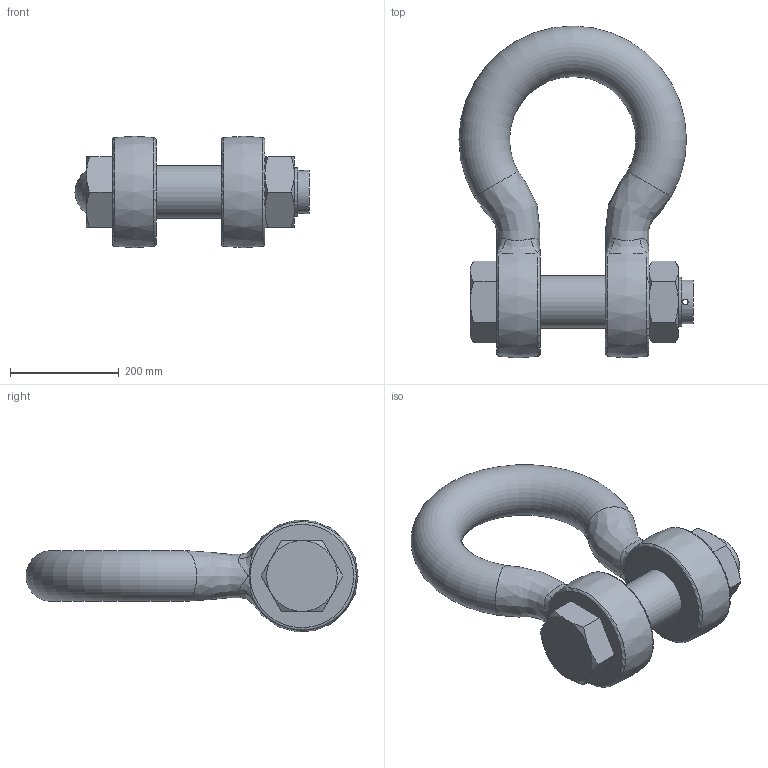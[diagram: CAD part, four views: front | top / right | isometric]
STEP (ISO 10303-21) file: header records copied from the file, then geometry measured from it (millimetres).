
FILE_DESCRIPTION(/* description */ (''),/* implementation_level */ '2;1');
FILE_NAME(/* name */ 'C:\Users\D\Documents\Inventor\HP\吊具\シャックル\BB_2\bb_80.stp',/* time_stamp */ '2024-11-20T10:47:07+09:00',/* author */ ('D'),/* organization */ (''),/* preprocessor_version */ 'ST-DEVELOPER v18',/* originating_system */ 'Autodesk Inventor 2020',/* authorisation */ '');
FILE_SCHEMA (('AUTOMOTIVE_DESIGN { 1 0 10303 214 3 1 1 }'));
Length unit declared in the file: millimetre
Products named in the file (3): bb_80; ba_6; sb_pin_10
Assembly tree (2 placements, depth 2):
  bb_80
    ba_6
    sb_pin_10
Bounding box: 430 x 610 x 204.91 mm (x, y, z)
Volume: 13761840.2 mm3; surface area: 710324.4 mm2
Topology: 4 solids, 4 shells, 71 faces, 177 edges, 117 vertices
Faces by surface type: plane 26, cone 19, bspline 14, cylinder 7, torus 5
Full cylindrical faces by diameter (mm): 10 x1, 80 x1, 90 x2, 96 x1, 98 x2
Entity records: 4152 total; most frequent: CARTESIAN_POINT 2507, ORIENTED_EDGE 354, DIRECTION 293, EDGE_CURVE 177, AXIS2_PLACEMENT_3D 133, VERTEX_POINT 117, EDGE_LOOP 80, CIRCLE 71
